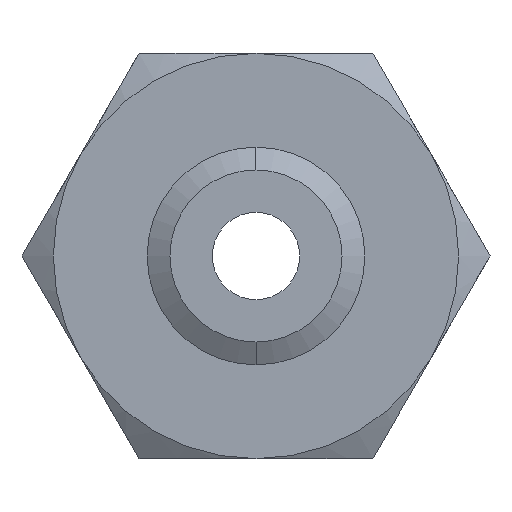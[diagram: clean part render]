
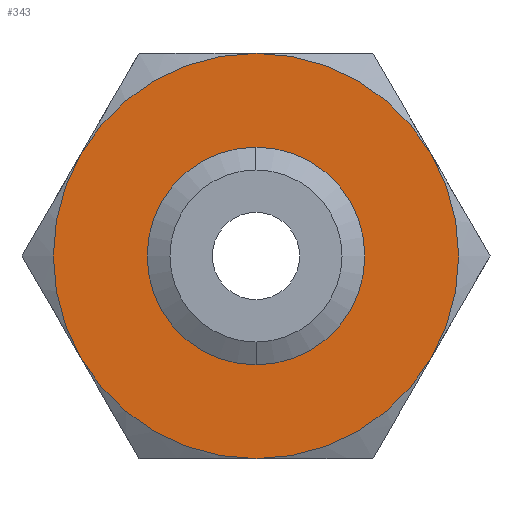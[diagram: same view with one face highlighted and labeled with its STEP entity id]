
A CAD part, front view. The second image highlights one B-rep face of the part: STEP entity #343.
In plain terms, the highlighted planar face has unit normal (0, -1, 0).
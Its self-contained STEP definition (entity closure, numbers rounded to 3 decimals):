
#189 = EDGE_CURVE ( 'NONE', #190, #352, #821, .T. ) ;
#190 = VERTEX_POINT ( 'NONE', #816 ) ;
#191 = ORIENTED_EDGE ( 'NONE', *, *, #192, .F. ) ;
#192 = EDGE_CURVE ( 'NONE', #193, #190, #815, .T. ) ;
#193 = VERTEX_POINT ( 'NONE', #810 ) ;
#194 = ORIENTED_EDGE ( 'NONE', *, *, #195, .F. ) ;
#195 = EDGE_CURVE ( 'NONE', #347, #193, #808, .T. ) ;
#196 = EDGE_LOOP ( 'NONE', ( #197, #223 ) ) ;
#197 = ORIENTED_EDGE ( 'NONE', *, *, #1957, .F. ) ;
#223 = ORIENTED_EDGE ( 'NONE', *, *, #327, .F. ) ;
#270 = EDGE_LOOP ( 'NONE', ( #344, #348, #351, #272, #191, #194 ) ) ;
#271 = EDGE_CURVE ( 'NONE', #352, #350, #918, .T. ) ;
#272 = ORIENTED_EDGE ( 'NONE', *, *, #189, .F. ) ;
#327 = EDGE_CURVE ( 'NONE', #1944, #1947, #1052, .T. ) ;
#343 = ADVANCED_FACE ( 'NONE', ( #1077, #1073 ), #1069, .F. ) ;
#344 = ORIENTED_EDGE ( 'NONE', *, *, #345, .F. ) ;
#345 = EDGE_CURVE ( 'NONE', #346, #347, #1129, .T. ) ;
#346 = VERTEX_POINT ( 'NONE', #1124 ) ;
#347 = VERTEX_POINT ( 'NONE', #1123 ) ;
#348 = ORIENTED_EDGE ( 'NONE', *, *, #349, .F. ) ;
#349 = EDGE_CURVE ( 'NONE', #350, #346, #1122, .T. ) ;
#350 = VERTEX_POINT ( 'NONE', #1117 ) ;
#351 = ORIENTED_EDGE ( 'NONE', *, *, #271, .F. ) ;
#352 = VERTEX_POINT ( 'NONE', #1116 ) ;
#804 = DIRECTION ( 'NONE',  ( 0., 0., 1. ) ) ;
#805 = DIRECTION ( 'NONE',  ( 0., 1., 0. ) ) ;
#806 = CARTESIAN_POINT ( 'NONE',  ( 0., 0., 0. ) ) ;
#807 = AXIS2_PLACEMENT_3D ( 'NONE', #806, #805, #804 ) ;
#808 = CIRCLE ( 'NONE', #807, 32.5 ) ;
#810 = CARTESIAN_POINT ( 'NONE',  ( 28.146, 0., -16.25 ) ) ;
#811 = DIRECTION ( 'NONE',  ( 0., 0., 1. ) ) ;
#812 = DIRECTION ( 'NONE',  ( 0., 1., 0. ) ) ;
#813 = CARTESIAN_POINT ( 'NONE',  ( 0., 0., 0. ) ) ;
#814 = AXIS2_PLACEMENT_3D ( 'NONE', #813, #812, #811 ) ;
#815 = CIRCLE ( 'NONE', #814, 32.5 ) ;
#816 = CARTESIAN_POINT ( 'NONE',  ( 0., 0., -32.5 ) ) ;
#817 = DIRECTION ( 'NONE',  ( 0., 0., 1. ) ) ;
#818 = DIRECTION ( 'NONE',  ( 0., 1., 0. ) ) ;
#819 = CARTESIAN_POINT ( 'NONE',  ( 0., 0., 0. ) ) ;
#820 = AXIS2_PLACEMENT_3D ( 'NONE', #819, #818, #817 ) ;
#821 = CIRCLE ( 'NONE', #820, 32.5 ) ;
#916 = CARTESIAN_POINT ( 'NONE',  ( 0., 0., 0. ) ) ;
#917 = AXIS2_PLACEMENT_3D ( 'NONE', #916, #978, #977 ) ;
#918 = CIRCLE ( 'NONE', #917, 32.5 ) ;
#977 = DIRECTION ( 'NONE',  ( 0., 0., 1. ) ) ;
#978 = DIRECTION ( 'NONE',  ( 0., 1., 0. ) ) ;
#1049 = DIRECTION ( 'NONE',  ( 0., 0., -1. ) ) ;
#1050 = DIRECTION ( 'NONE',  ( 0., -1., 0. ) ) ;
#1051 = AXIS2_PLACEMENT_3D ( 'NONE', #1064, #1050, #1049 ) ;
#1052 = CIRCLE ( 'NONE', #1051, 13.802 ) ;
#1064 = CARTESIAN_POINT ( 'NONE',  ( 0., 0., 0. ) ) ;
#1069 = PLANE ( 'NONE',  #1072 ) ;
#1070 = CARTESIAN_POINT ( 'NONE',  ( 18.764, 0., -32.5 ) ) ;
#1072 = AXIS2_PLACEMENT_3D ( 'NONE', #1070, #1131, #1130 ) ;
#1073 = FACE_BOUND ( 'NONE', #196, .T. ) ;
#1077 = FACE_OUTER_BOUND ( 'NONE', #270, .T. ) ;
#1116 = CARTESIAN_POINT ( 'NONE',  ( -28.146, 0., -16.25 ) ) ;
#1117 = CARTESIAN_POINT ( 'NONE',  ( -28.146, 0., 16.25 ) ) ;
#1118 = DIRECTION ( 'NONE',  ( 0., 0., 1. ) ) ;
#1119 = DIRECTION ( 'NONE',  ( 0., 1., 0. ) ) ;
#1120 = CARTESIAN_POINT ( 'NONE',  ( 0., 0., 0. ) ) ;
#1121 = AXIS2_PLACEMENT_3D ( 'NONE', #1120, #1119, #1118 ) ;
#1122 = CIRCLE ( 'NONE', #1121, 32.5 ) ;
#1123 = CARTESIAN_POINT ( 'NONE',  ( 28.146, 0., 16.25 ) ) ;
#1124 = CARTESIAN_POINT ( 'NONE',  ( 0., 0., 32.5 ) ) ;
#1125 = DIRECTION ( 'NONE',  ( 0., 0., 1. ) ) ;
#1126 = DIRECTION ( 'NONE',  ( 0., 1., 0. ) ) ;
#1127 = CARTESIAN_POINT ( 'NONE',  ( 0., 0., 0. ) ) ;
#1128 = AXIS2_PLACEMENT_3D ( 'NONE', #1127, #1126, #1125 ) ;
#1129 = CIRCLE ( 'NONE', #1128, 32.5 ) ;
#1130 = DIRECTION ( 'NONE',  ( 0., 0., 1. ) ) ;
#1131 = DIRECTION ( 'NONE',  ( 0., 1., 0. ) ) ;
#1484 = CARTESIAN_POINT ( 'NONE',  ( 0., 0., 13.802 ) ) ;
#1516 = DIRECTION ( 'NONE',  ( 0., 0., -1. ) ) ;
#1517 = DIRECTION ( 'NONE',  ( 0., -1., 0. ) ) ;
#1518 = CARTESIAN_POINT ( 'NONE',  ( 0., 0., 0. ) ) ;
#1519 = AXIS2_PLACEMENT_3D ( 'NONE', #1518, #1517, #1516 ) ;
#1520 = CIRCLE ( 'NONE', #1519, 13.802 ) ;
#1533 = CARTESIAN_POINT ( 'NONE',  ( 0., 0., -13.802 ) ) ;
#1944 = VERTEX_POINT ( 'NONE', #1484 ) ;
#1947 = VERTEX_POINT ( 'NONE', #1533 ) ;
#1957 = EDGE_CURVE ( 'NONE', #1947, #1944, #1520, .T. ) ;
